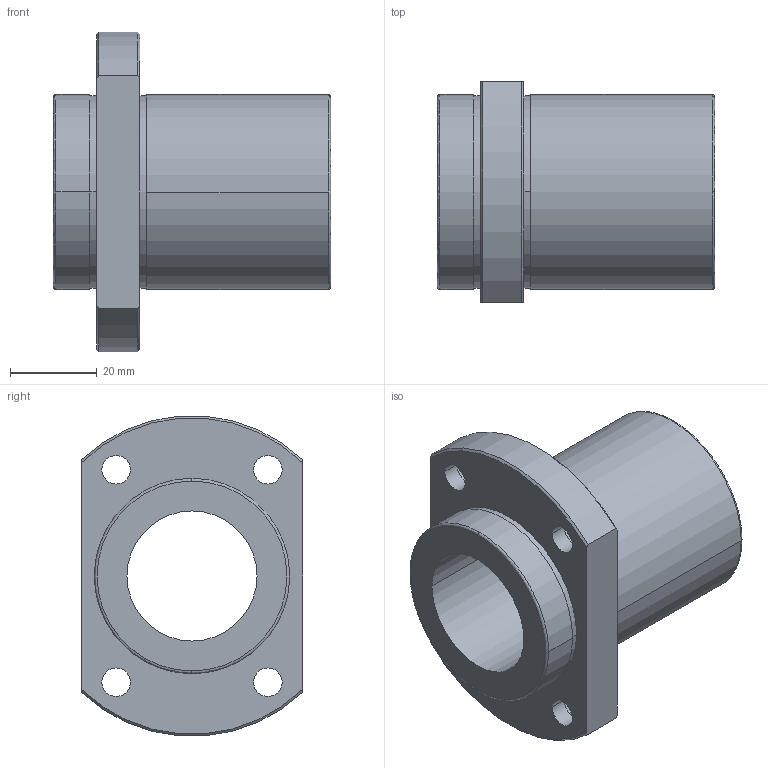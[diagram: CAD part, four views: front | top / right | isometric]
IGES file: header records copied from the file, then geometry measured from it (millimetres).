
Start section: 3D InterOp IGES (Version 21 0 1), Spatial Corp. Copyright (c) 1999-2007.
Global section: file name: NFIO30.igs; native system: Spatial Corp.; preprocessor: 3D InterOp GENERIC/IGES 3.0; author: Noname; organization: Noname; date: 20220307.110927; units: millimetre
Bounding box: 64 x 51 x 73.74 mm (x, y, z)
Surface area: 22263.4 mm2 (no closed solid volume)
Topology: 0 solids, 0 shells, 48 faces, 228 edges, 228 vertices
Faces by surface type: revolution 36, extrusion 12
